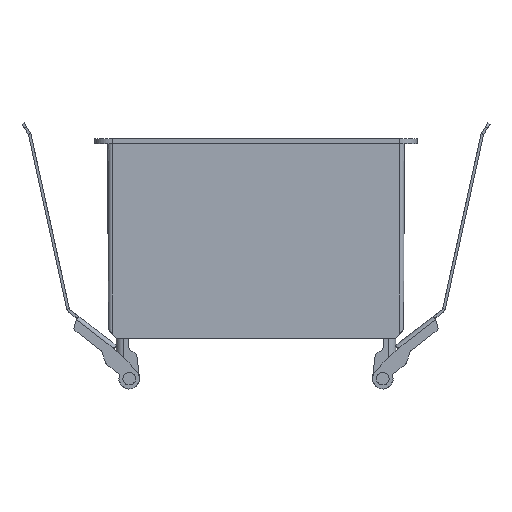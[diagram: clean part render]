
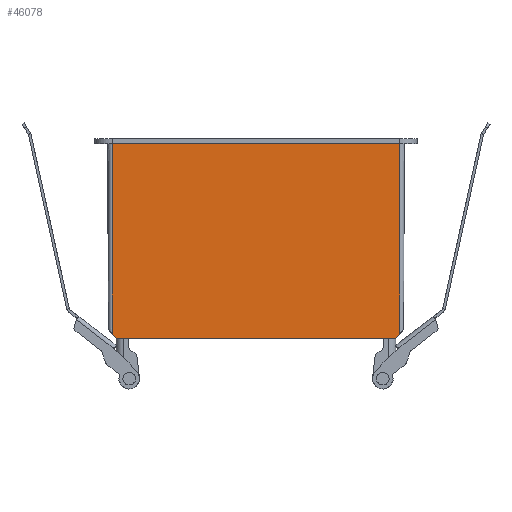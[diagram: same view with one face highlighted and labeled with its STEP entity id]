
A CAD part, front view. The second image highlights one B-rep face of the part: STEP entity #46078.
In plain terms, the highlighted planar face has unit normal (0, -1, -0.006).
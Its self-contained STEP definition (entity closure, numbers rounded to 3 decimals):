
#10449=FACE_OUTER_BOUND('',#13327,.T.);
#13327=EDGE_LOOP('',(#41817,#41818,#41819,#41820,#41821,#41822));
#15019=LINE('',#153596,#16873);
#15030=LINE('',#153630,#16884);
#15031=LINE('',#153633,#16885);
#15032=LINE('',#153639,#16886);
#15071=LINE('',#153775,#16925);
#15097=LINE('',#153847,#16951);
#16873=VECTOR('',#61726,10.);
#16884=VECTOR('',#61757,10.);
#16885=VECTOR('',#61760,10.);
#16886=VECTOR('',#61767,10.);
#16925=VECTOR('',#61912,10.);
#16951=VECTOR('',#61994,10.);
#21166=VERTEX_POINT('',#153582);
#21172=VERTEX_POINT('',#153594);
#21185=VERTEX_POINT('',#153628);
#21186=VERTEX_POINT('',#153632);
#21187=VERTEX_POINT('',#153636);
#21232=VERTEX_POINT('',#153774);
#28025=EDGE_CURVE('',#21166,#21172,#15019,.T.);
#28042=EDGE_CURVE('',#21172,#21185,#15030,.F.);
#28043=EDGE_CURVE('',#21166,#21186,#15031,.T.);
#28046=EDGE_CURVE('',#21185,#21187,#15032,.T.);
#28114=EDGE_CURVE('',#21232,#21186,#15071,.T.);
#28151=EDGE_CURVE('',#21232,#21187,#15097,.T.);
#41817=ORIENTED_EDGE('',*,*,#28025,.T.);
#41818=ORIENTED_EDGE('',*,*,#28042,.T.);
#41819=ORIENTED_EDGE('',*,*,#28046,.T.);
#41820=ORIENTED_EDGE('',*,*,#28151,.F.);
#41821=ORIENTED_EDGE('',*,*,#28114,.T.);
#41822=ORIENTED_EDGE('',*,*,#28043,.F.);
#43344=PLANE('',#51097);
#46078=ADVANCED_FACE('',(#10449),#43344,.T.);
#51097=AXIS2_PLACEMENT_3D('',#153848,#61995,#61996);
#61726=DIRECTION('',(0.643,0.005,-0.766));
#61757=DIRECTION('',(-1.,0.,0.));
#61760=DIRECTION('',(0.,-0.006,1.));
#61767=DIRECTION('',(0.643,-0.005,0.766));
#61912=DIRECTION('',(-1.,0.,0.));
#61994=DIRECTION('',(0.,0.006,-1.));
#61995=DIRECTION('center_axis',(0.,-1.,-0.006));
#61996=DIRECTION('ref_axis',(1.,0.,0.));
#153582=CARTESIAN_POINT('',(-57.097,-18.984,1.756));
#153594=CARTESIAN_POINT('',(-55.623,-18.974,0.));
#153596=CARTESIAN_POINT('',(-56.313,-18.979,0.822));
#153628=CARTESIAN_POINT('',(55.623,-18.974,0.));
#153630=CARTESIAN_POINT('',(-29.549,-18.974,0.));
#153632=CARTESIAN_POINT('',(-57.097,-19.447,77.5));
#153633=CARTESIAN_POINT('',(-57.097,-18.974,0.001));
#153636=CARTESIAN_POINT('',(57.097,-18.984,1.756));
#153639=CARTESIAN_POINT('',(31.896,-18.801,-28.277));
#153774=CARTESIAN_POINT('',(57.097,-19.447,77.5));
#153775=CARTESIAN_POINT('',(-29.549,-19.447,77.5));
#153847=CARTESIAN_POINT('',(57.097,-18.974,0.001));
#153848=CARTESIAN_POINT('Origin',(-59.097,-18.974,0.001));
